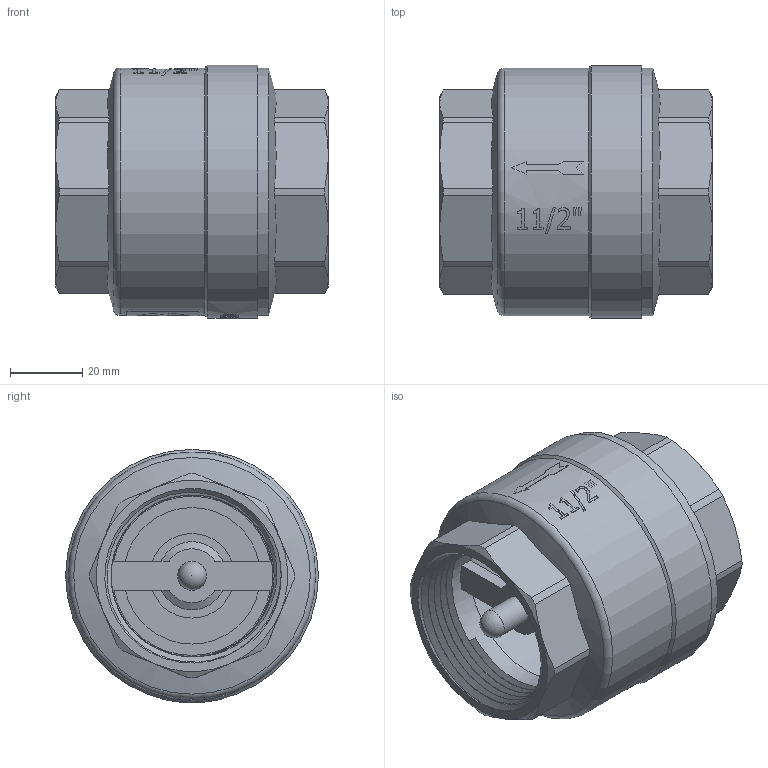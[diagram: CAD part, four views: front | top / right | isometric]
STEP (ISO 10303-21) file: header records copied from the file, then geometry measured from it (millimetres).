
FILE_DESCRIPTION(/* description */ (''),/* implementation_level */ '2;1');
FILE_NAME(/* name */ 'F:\Артём\00000\Работа удаленка\═╝╓╜\VT.161\VT.161.N.08.stp',/* time_stamp */ '2021-04-01T14:45:57+03:00',/* author */ ('almis'),/* organization */ (''),/* preprocessor_version */ 'ST-DEVELOPER v18',/* originating_system */ 'Autodesk Inventor 2020',/* authorisation */ '');
FILE_SCHEMA (('AUTOMOTIVE_DESIGN { 1 0 10303 214 3 1 1 }'));
Length unit declared in the file: millimetre
Products named in the file (1): VT.161.N.08
Bounding box: 75.5 x 70 x 70.1 mm (x, y, z)
Volume: 78162.5 mm3; surface area: 48874.5 mm2
Topology: 1 solids, 1 shells, 276 faces, 755 edges, 506 vertices
Faces by surface type: plane 127, cylinder 78, bspline 42, cone 26, torus 2, sphere 1
Full cylindrical faces by diameter (mm): 7.92 x3, 8 x2, 9.72 x1, 18.818 x1, 23.4 x1, 37.8 x1, 44 x1, 44.1 x1, 44.8 x8, 44.818 x1, 49.4 x10, 58.5 x1, 63.5 x1, 68.5 x2, 70 x1
Entity records: 14325 total; most frequent: CARTESIAN_POINT 7537, ORIENTED_EDGE 1508, DIRECTION 1291, EDGE_CURVE 754, VERTEX_POINT 506, AXIS2_PLACEMENT_3D 489, LINE 313, VECTOR 313
